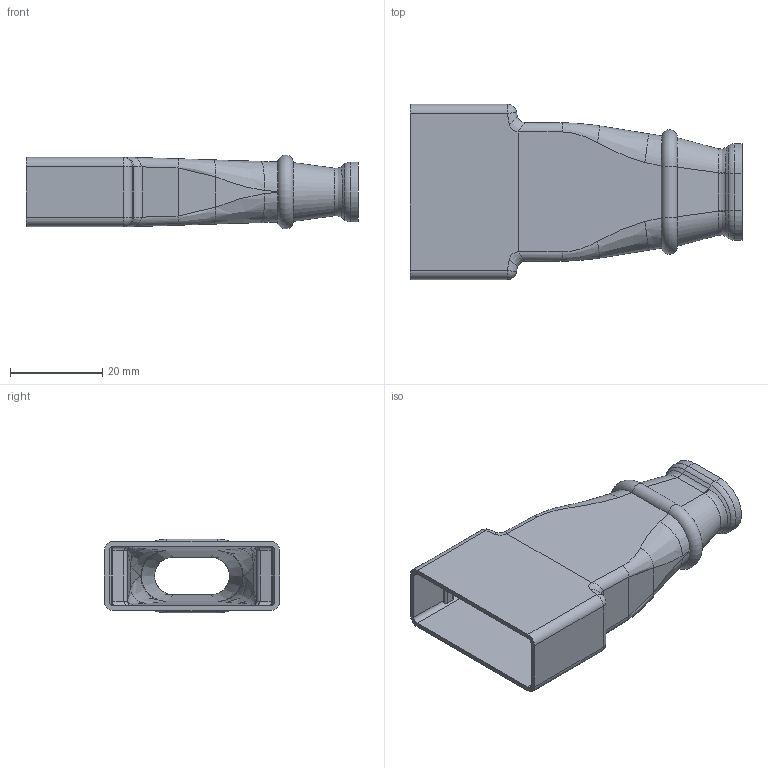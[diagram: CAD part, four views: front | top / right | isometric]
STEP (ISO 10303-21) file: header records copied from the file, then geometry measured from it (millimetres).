
FILE_DESCRIPTION(('Creo Elements/Direct Modeling STEP Export'),'2;1');
FILE_NAME('QTM-34C.stp','2014-02-25T13:03:51',(''),(''),'Creo Elements/Direct Modeling STEP processor for AP214 (Solid Model)','Creo Elements/Direct Modeling 18.1B 29-Sep-2012 (C) Parametric Technology GmbH','');
FILE_SCHEMA(('AUTOMOTIVE_DESIGN { 1 0 10303 214 1 1 1 1 }'));
Length unit declared in the file: millimetre
Products named in the file (2): QTM34-C
Assembly tree (1 placements, depth 2):
  QTM34-C
    QTM34-C
Bounding box: 72 x 38 x 16 mm (x, y, z)
Volume: 5985.8 mm3; surface area: 11813.8 mm2
Topology: 1 solids, 1 shells, 176 faces, 432 edges, 252 vertices
Faces by surface type: cylinder 56, bspline 54, plane 46, sphere 8, torus 8, cone 4
Entity records: 11121 total; most frequent: CARTESIAN_POINT 7466, ORIENTED_EDGE 848, DIRECTION 580, EDGE_CURVE 424, VERTEX_POINT 252, AXIS2_PLACEMENT_3D 210, EDGE_LOOP 180, B_SPLINE_CURVE_WITH_KNOTS 178
